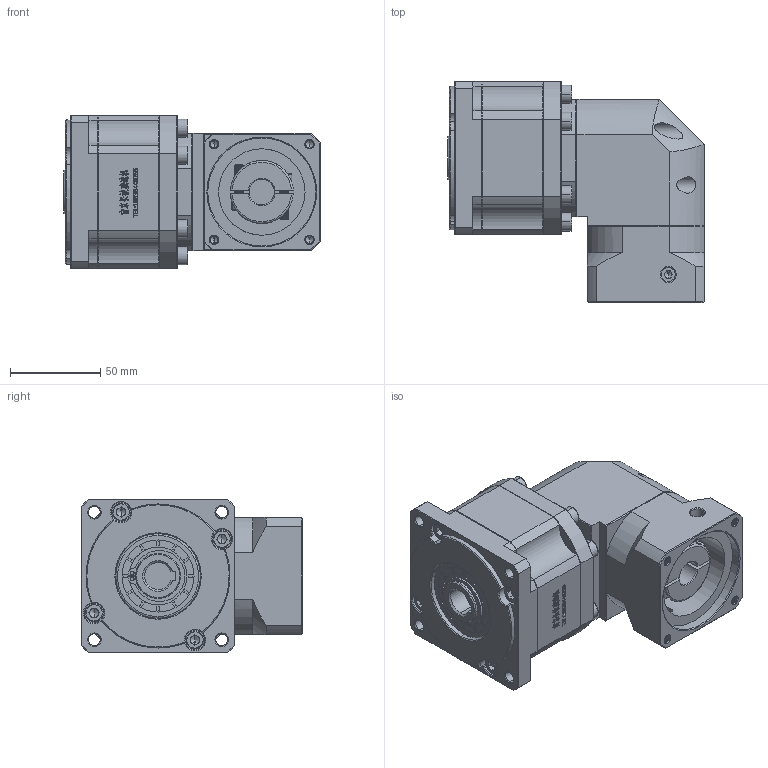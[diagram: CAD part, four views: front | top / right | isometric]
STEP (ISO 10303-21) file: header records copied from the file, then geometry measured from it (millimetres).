
FILE_DESCRIPTION (( 'STEP AP214' ), '1' );
FILE_NAME ('ZBR90-K15-L2-14-60-75-M5.step', '2022-05-07T15:24:25', ( '' ), ( 'Microsoft' ), 'SwSTEP 2.0', 'SolidWorks 2016', '' );
FILE_SCHEMA (( 'AUTOMOTIVE_DESIGN' ));
Length unit declared in the file: millimetre
Products named in the file (1): ZBR90-K15-L2-14-60-75-M5
Bounding box: 142.5 x 122.7 x 85 mm (x, y, z)
Volume: 796928.4 mm3; surface area: 99365.1 mm2
Topology: 5 solids, 5 shells, 2990 faces, 8041 edges, 5194 vertices
Faces by surface type: plane 1591, bspline 598, cylinder 418, cone 363, torus 20
Entity records: 157342 total; most frequent: CARTESIAN_POINT 53884, ORIENTED_EDGE 15994, DIRECTION 12382, EDGE_CURVE 7997, VECTOR 5306, LINE 5306, VERTEX_POINT 5194, AXIS2_PLACEMENT_3D 3538
